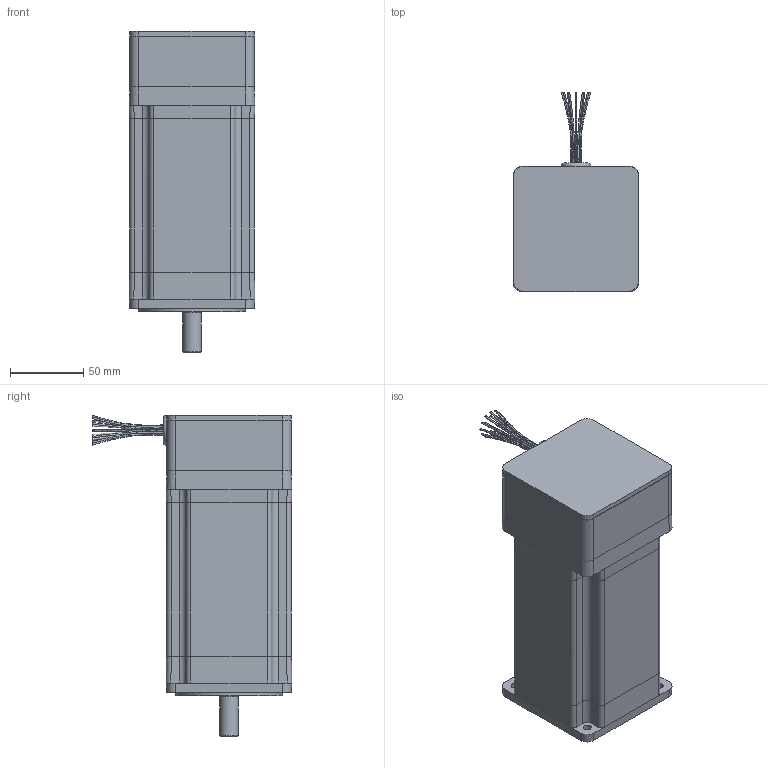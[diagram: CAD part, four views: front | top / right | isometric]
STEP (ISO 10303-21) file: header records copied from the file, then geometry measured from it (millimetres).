
FILE_DESCRIPTION((''),'2;1');
FILE_NAME('C:\CAD_work\Dummy_Modeling_Project_02-12-05\3D MODELS\BE344_FL.stp','2005-12-20T16:07:38',('jevans'),(''),'Autodesk Inventor 10','Autodesk Inventor 10','');
FILE_SCHEMA(('AUTOMOTIVE_DESIGN { 1 0 10303 214 1 1 1 1 }'));
Length unit declared in the file: inch
Products named in the file (1): BE34_FL
Bounding box: 85.66 x 136.17 x 219.33 mm (x, y, z)
Volume: 1271994.8 mm3; surface area: 91730.3 mm2
Topology: 4 solids, 4 shells, 255 faces, 581 edges, 360 vertices
Faces by surface type: plane 140, cylinder 83, bspline 25, cone 6, torus 1
Full cylindrical faces by diameter (mm): 2.5 x2, 7.95 x1, 12.7 x1, 14.994 x1, 15 x1, 20.32 x1, 32 x1, 32.007 x1, 35.001 x1, 36.779 x1, 37.109 x1, 41.326 x3, 73.025 x1
Entity records: 9135 total; most frequent: CARTESIAN_POINT 3497, DIRECTION 1187, ORIENTED_EDGE 1084, EDGE_CURVE 542, AXIS2_PLACEMENT_3D 450, VERTEX_POINT 351, EDGE_LOOP 327, VECTOR 287
